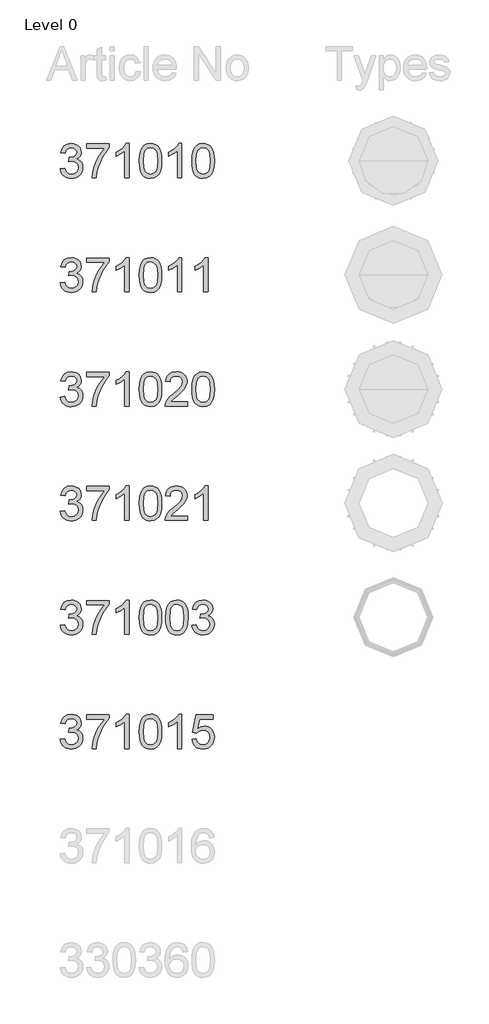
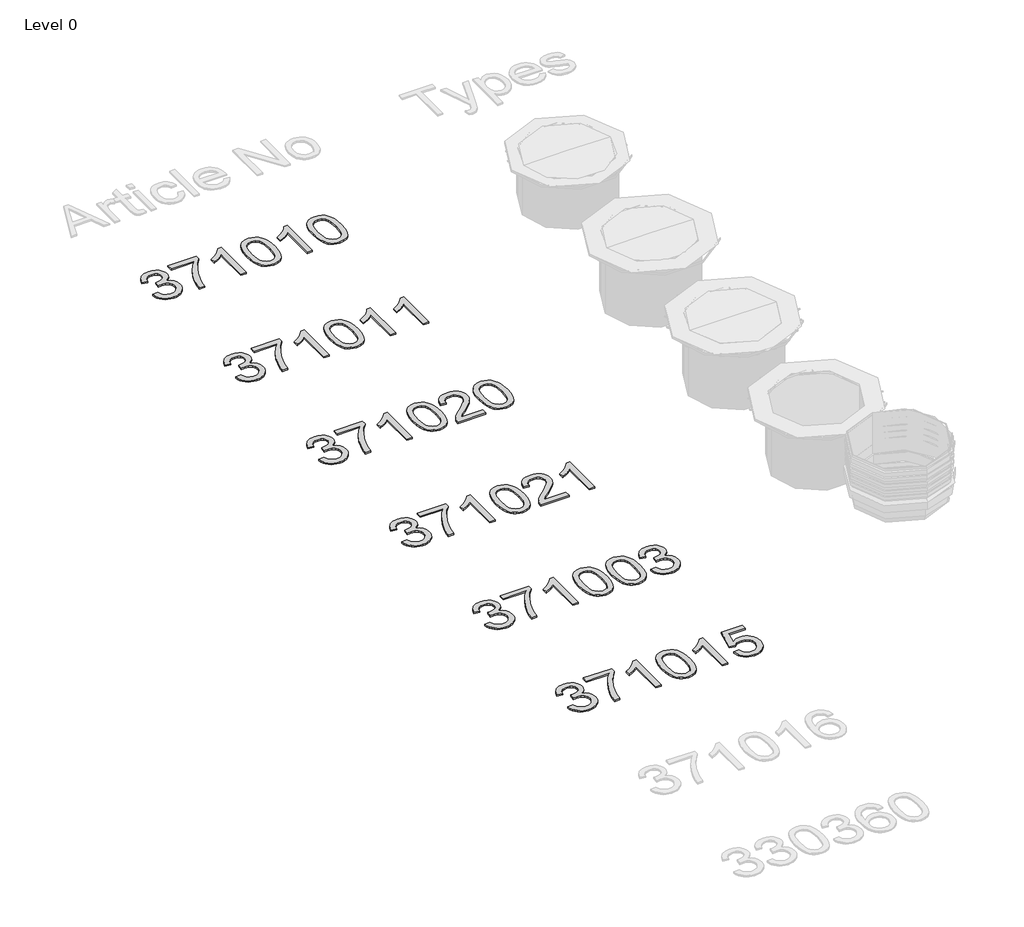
# One storey, part 22 of 25: 6 proxies.
"""IFC4 building model written with IfcOpenShell, lengths in millimetres."""

from ifc_helpers import new_model, si_unit, origin, origin_with_axes, place, context, project, spatial, polyline, outline, extrude, element, save

model = new_model("IFC4")

# Units and contexts
model_context = context("Model", 3, world=origin())
ifc_project = project(units=[si_unit("LENGTHUNIT", "METRE", prefix="MILLI")], contexts=[model_context])

# Site, building, storey
site = spatial("IfcSite", under=ifc_project)
building = spatial("IfcBuilding", under=site)
storey = spatial("IfcBuildingStorey", under=building, Name="Level 0", Elevation=0.0)

# Proxies
placement = place(None, origin())
element("IfcBuildingElementProxy", 1, Name="300mm Arial", ObjectType="300mm Arial", at=placement, inside=storey, context=model_context, shape_type="SweptSolid", body=[
    extrude(outline(polyline([(-3192.0538732, 7879.074324), (-3154.3827568, 7883.7832135), (-3145.9490621, 7860.1100071), (-3133.5974241, 7844.1255344), (-3116.7208376, 7835.020455), (-3094.7122972, 7831.9854286), (-3068.8869812, 7836.1608892), (-3048.947777, 7848.6872712), (-3036.2006659, 7867.3756765), (-3031.9516289, 7890.0372074), (-3036.1638777, 7911.5491071), (-3048.8006242, 7928.9959107), (-3067.930488, 7940.5566024), (-3091.6220885, 7944.4101663), (-3118.0360157, 7940.289888), (-3113.842161, 7977.9610043), (-3107.8088963, 7977.5195459), (-3085.2393359, 7980.2234785), (-3065.0610084, 7988.3352765), (-3050.8239752, 8002.057275), (-3046.0782975, 8021.5918089), (-3049.5179941, 8037.8613901), (-3059.8370841, 8051.0591567), (-3075.5824335, 8059.8055512), (-3095.3009084, 8062.721016), (-3115.0561716, 8059.77796), (-3131.2061912, 8050.9487921), (-3142.9968091, 8036.2335123), (-3149.6738673, 8015.6321206), (-3187.3449836, 8020.3410101), (-3176.2533415, 8054.1677596), (-3156.5164724, 8079.4228585), (-3129.513934, 8095.1498138), (-3096.6252836, 8100.3921323), (-3072.9428802, 8097.8077613), (-3051.1918572, 8090.0546482), (-3032.8529397, 8077.8225719), (-3019.4068528, 8061.801311), (-3011.1570991, 8043.3428319), (-3008.4071812, 8023.7991009), (-3011.0191433, 8005.5889421), (-3018.8550298, 7989.0710405), (-3031.8044761, 7974.9995542), (-3049.7571174, 7964.1286413), (-3026.1758815, 7954.6004976), (-3008.7014868, 7938.3769016), (-2997.8857561, 7916.3407701), (-2994.2805125, 7889.3750198), (-2996.0831343, 7870.2635502), (-3001.4909997, 7852.6603967), (-3010.5041085, 7836.5655594), (-3023.122461, 7821.9790383), (-3038.4953298, 7809.8757207), (-3055.771988, 7801.2304938), (-3074.9524356, 7796.0433577), (-3096.0366724, 7794.3143123), (-3115.0929598, 7795.7904388), (-3132.4569899, 7800.2188183), (-3148.1287629, 7807.5994508), (-3162.1082787, 7817.9323364), (-3173.8299188, 7830.6104696), (-3182.7280646, 7845.0268453), (-3188.802716, 7861.1814634), (-3192.0538732, 7879.074324)])), origin_with_axes(), (0.0, 0.0, 1.0), 10.0),
    extrude(outline(polyline([(-2961.3182858, 8058.0121264), (-2961.3182858, 8095.6832427), (-2763.5449252, 8095.6832427), (-2763.5449252, 8065.2226135), (-2791.7338831, 8029.547257), (-2819.6469294, 7984.17821), (-2844.267432, 7933.2541448), (-2862.5787583, 7880.9137339), (-2871.555079, 7841.7526956), (-2876.5582741, 7799.0232018), (-2914.2293904, 7799.0232018), (-2910.1550973, 7837.8531464), (-2899.2565932, 7884.0039427), (-2881.8281837, 7932.923051), (-2858.1641743, 7980.0579316), (-2830.5362365, 8022.6678637), (-2801.2160415, 8058.0121264), (-2961.3182858, 8058.0121264)])), origin_with_axes(), (0.0, 0.0, 1.0), 10.0),
    extrude(outline(polyline([(-2589.3160123, 7799.0232018), (-2626.9871286, 7799.0232018), (-2626.9871286, 8033.8790675), (-2662.6716821, 8008.4584217), (-2702.3293612, 7989.4389225), (-2702.3293612, 8025.0498997), (-2672.7424517, 8041.1447369), (-2647.1102737, 8060.2929948), (-2626.9043551, 8080.6552632), (-2613.5962239, 8100.3921323), (-2589.3160123, 8100.3921323), (-2589.3160123, 7799.0232018)])), origin_with_axes(), (0.0, 0.0, 1.0), 10.0),
    extrude(outline(polyline([(-2499.847111, 7947.2796459), (-2497.078799, 7995.5181725), (-2488.773863, 8033.9894321), (-2475.0150764, 8063.282036), (-2455.8852126, 8083.9845953), (-2431.246316, 8096.290248), (-2400.9604307, 8100.3921323), (-2377.7470768, 8097.9641111), (-2356.9617441, 8090.6800476), (-2339.5793198, 8078.8250503), (-2326.5746913, 8062.6842278), (-2316.752242, 8042.3955357), (-2308.9163555, 8018.0969299), (-2303.7844017, 7987.2408276), (-2302.0737504, 7947.2796459), (-2304.8144713, 7899.3170308), (-2313.0366339, 7860.9377416), (-2326.7126471, 7831.6175466), (-2345.8149197, 7810.8322139), (-2370.5089986, 7798.4437877), (-2400.9604307, 7794.3143123), (-2421.7089753, 7796.107737), (-2440.103075, 7801.4880112), (-2456.14273, 7810.4551348), (-2469.8279402, 7823.0091079), (-2482.9613275, 7845.7028285), (-2492.3423183, 7873.9791583), (-2497.9709129, 7907.8380975), (-2499.847111, 7947.2796459)]), holes=[polyline([(-2462.1759947, 7947.3532223), (-2457.7614108, 7888.0966299), (-2452.2431809, 7867.8286312), (-2444.517659, 7853.8008309), (-2424.799184, 7837.4392792), (-2400.9604307, 7831.9854286), (-2377.1216774, 7837.4576733), (-2357.4032025, 7853.8744073), (-2349.6776806, 7867.9252003), (-2344.1594507, 7888.1886004), (-2339.7448667, 7947.3532223), (-2344.0122979, 8005.2762424), (-2349.3465868, 8025.4775625), (-2356.8145913, 8039.8387559), (-2376.496278, 8057.0004509), (-2401.4018891, 8062.721016), (-2424.983125, 8057.6810326), (-2443.9290478, 8042.5610826), (-2451.9120871, 8026.9260978), (-2457.614258, 8005.8464595), (-2462.1759947, 7947.3532223)])]), origin_with_axes(), (0.0, 0.0, 1.0), 10.0),
    extrude(outline(polyline([(-2127.8448375, 7799.0232018), (-2165.5159538, 7799.0232018), (-2165.5159538, 8033.8790675), (-2201.2005073, 8008.4584217), (-2240.8581864, 7989.4389225), (-2240.8581864, 8025.0498997), (-2211.271277, 8041.1447369), (-2185.639099, 8060.2929948), (-2165.4331804, 8080.6552632), (-2152.1250492, 8100.3921323), (-2127.8448375, 8100.3921323), (-2127.8448375, 7799.0232018)])), origin_with_axes(), (0.0, 0.0, 1.0), 10.0),
    extrude(outline(polyline([(-2038.3759363, 7947.2796459), (-2035.6076243, 7995.5181725), (-2027.3026882, 8033.9894321), (-2013.5439016, 8063.282036), (-1994.4140379, 8083.9845953), (-1969.7751412, 8096.290248), (-1939.489256, 8100.3921323), (-1916.2759021, 8097.9641111), (-1895.4905694, 8090.6800476), (-1878.1081451, 8078.8250503), (-1865.1035166, 8062.6842278), (-1855.2810673, 8042.3955357), (-1847.4451808, 8018.0969299), (-1842.313227, 7987.2408276), (-1840.6025757, 7947.2796459), (-1843.3432965, 7899.3170308), (-1851.5654591, 7860.9377416), (-1865.2414723, 7831.6175466), (-1884.3437449, 7810.8322139), (-1909.0378238, 7798.4437877), (-1939.489256, 7794.3143123), (-1960.2378005, 7796.107737), (-1978.6319003, 7801.4880112), (-1994.6715553, 7810.4551348), (-2008.3567655, 7823.0091079), (-2021.4901527, 7845.7028285), (-2030.8711436, 7873.9791583), (-2036.4997381, 7907.8380975), (-2038.3759363, 7947.2796459)]), holes=[polyline([(-2000.70482, 7947.3532223), (-1996.290236, 7888.0966299), (-1990.7720061, 7867.8286312), (-1983.0464842, 7853.8008309), (-1963.3280093, 7837.4392792), (-1939.489256, 7831.9854286), (-1915.6505027, 7837.4576733), (-1895.9320277, 7853.8744073), (-1888.2065058, 7867.9252003), (-1882.6882759, 7888.1886004), (-1878.273692, 7947.3532223), (-1882.5411231, 8005.2762424), (-1887.8754121, 8025.4775625), (-1895.3434166, 8039.8387559), (-1915.0251033, 8057.0004509), (-1939.9307144, 8062.721016), (-1963.5119503, 8057.6810326), (-1982.457873, 8042.5610826), (-1990.4409123, 8026.9260978), (-1996.1430832, 8005.8464595), (-2000.70482, 7947.3532223)])]), origin_with_axes(), (0.0, 0.0, 1.0), 10.0),
])
element("IfcBuildingElementProxy", 2, Name="300mm Arial", ObjectType="300mm Arial", at=placement, inside=storey, context=model_context, shape_type="SweptSolid", body=[
    extrude(outline(polyline([(-3192.0538732, 6879.074324), (-3154.3827568, 6883.7832135), (-3145.9490621, 6860.1100071), (-3133.5974241, 6844.1255344), (-3116.7208376, 6835.020455), (-3094.7122972, 6831.9854286), (-3068.8869812, 6836.1608892), (-3048.947777, 6848.6872712), (-3036.2006659, 6867.3756765), (-3031.9516289, 6890.0372074), (-3036.1638777, 6911.5491071), (-3048.8006242, 6928.9959107), (-3067.930488, 6940.5566024), (-3091.6220885, 6944.4101663), (-3118.0360157, 6940.289888), (-3113.842161, 6977.9610043), (-3107.8088963, 6977.5195459), (-3085.2393359, 6980.2234785), (-3065.0610084, 6988.3352765), (-3050.8239752, 7002.057275), (-3046.0782975, 7021.5918089), (-3049.5179941, 7037.8613901), (-3059.8370841, 7051.0591567), (-3075.5824335, 7059.8055512), (-3095.3009084, 7062.721016), (-3115.0561716, 7059.77796), (-3131.2061912, 7050.9487921), (-3142.9968091, 7036.2335123), (-3149.6738673, 7015.6321206), (-3187.3449836, 7020.3410101), (-3176.2533415, 7054.1677596), (-3156.5164724, 7079.4228585), (-3129.513934, 7095.1498138), (-3096.6252836, 7100.3921323), (-3072.9428802, 7097.8077613), (-3051.1918572, 7090.0546482), (-3032.8529397, 7077.8225719), (-3019.4068528, 7061.801311), (-3011.1570991, 7043.3428319), (-3008.4071812, 7023.7991009), (-3011.0191433, 7005.5889421), (-3018.8550298, 6989.0710405), (-3031.8044761, 6974.9995542), (-3049.7571174, 6964.1286413), (-3026.1758815, 6954.6004976), (-3008.7014868, 6938.3769016), (-2997.8857561, 6916.3407701), (-2994.2805125, 6889.3750198), (-2996.0831343, 6870.2635502), (-3001.4909997, 6852.6603967), (-3010.5041085, 6836.5655594), (-3023.122461, 6821.9790383), (-3038.4953298, 6809.8757207), (-3055.771988, 6801.2304938), (-3074.9524356, 6796.0433577), (-3096.0366724, 6794.3143123), (-3115.0929598, 6795.7904388), (-3132.4569899, 6800.2188183), (-3148.1287629, 6807.5994508), (-3162.1082787, 6817.9323364), (-3173.8299188, 6830.6104696), (-3182.7280646, 6845.0268453), (-3188.802716, 6861.1814634), (-3192.0538732, 6879.074324)])), origin_with_axes(), (0.0, 0.0, 1.0), 10.0),
    extrude(outline(polyline([(-2961.3182858, 7058.0121264), (-2961.3182858, 7095.6832427), (-2763.5449252, 7095.6832427), (-2763.5449252, 7065.2226135), (-2791.7338831, 7029.547257), (-2819.6469294, 6984.17821), (-2844.267432, 6933.2541448), (-2862.5787583, 6880.9137339), (-2871.555079, 6841.7526956), (-2876.5582741, 6799.0232018), (-2914.2293904, 6799.0232018), (-2910.1550973, 6837.8531464), (-2899.2565932, 6884.0039427), (-2881.8281837, 6932.923051), (-2858.1641743, 6980.0579316), (-2830.5362365, 7022.6678637), (-2801.2160415, 7058.0121264), (-2961.3182858, 7058.0121264)])), origin_with_axes(), (0.0, 0.0, 1.0), 10.0),
    extrude(outline(polyline([(-2589.3160123, 6799.0232018), (-2626.9871286, 6799.0232018), (-2626.9871286, 7033.8790675), (-2662.6716821, 7008.4584217), (-2702.3293612, 6989.4389225), (-2702.3293612, 7025.0498997), (-2672.7424517, 7041.1447369), (-2647.1102737, 7060.2929948), (-2626.9043551, 7080.6552632), (-2613.5962239, 7100.3921323), (-2589.3160123, 7100.3921323), (-2589.3160123, 6799.0232018)])), origin_with_axes(), (0.0, 0.0, 1.0), 10.0),
    extrude(outline(polyline([(-2499.847111, 6947.2796459), (-2497.078799, 6995.5181725), (-2488.773863, 7033.9894321), (-2475.0150764, 7063.282036), (-2455.8852126, 7083.9845953), (-2431.246316, 7096.290248), (-2400.9604307, 7100.3921323), (-2377.7470768, 7097.9641111), (-2356.9617441, 7090.6800476), (-2339.5793198, 7078.8250503), (-2326.5746913, 7062.6842278), (-2316.752242, 7042.3955357), (-2308.9163555, 7018.0969299), (-2303.7844017, 6987.2408276), (-2302.0737504, 6947.2796459), (-2304.8144713, 6899.3170308), (-2313.0366339, 6860.9377416), (-2326.7126471, 6831.6175466), (-2345.8149197, 6810.8322139), (-2370.5089986, 6798.4437877), (-2400.9604307, 6794.3143123), (-2421.7089753, 6796.107737), (-2440.103075, 6801.4880112), (-2456.14273, 6810.4551348), (-2469.8279402, 6823.0091079), (-2482.9613275, 6845.7028285), (-2492.3423183, 6873.9791583), (-2497.9709129, 6907.8380975), (-2499.847111, 6947.2796459)]), holes=[polyline([(-2462.1759947, 6947.3532223), (-2457.7614108, 6888.0966299), (-2452.2431809, 6867.8286312), (-2444.517659, 6853.8008309), (-2424.799184, 6837.4392792), (-2400.9604307, 6831.9854286), (-2377.1216774, 6837.4576733), (-2357.4032025, 6853.8744073), (-2349.6776806, 6867.9252003), (-2344.1594507, 6888.1886004), (-2339.7448667, 6947.3532223), (-2344.0122979, 7005.2762424), (-2349.3465868, 7025.4775625), (-2356.8145913, 7039.8387559), (-2376.496278, 7057.0004509), (-2401.4018891, 7062.721016), (-2424.983125, 7057.6810326), (-2443.9290478, 7042.5610826), (-2451.9120871, 7026.9260978), (-2457.614258, 7005.8464595), (-2462.1759947, 6947.3532223)])]), origin_with_axes(), (0.0, 0.0, 1.0), 10.0),
    extrude(outline(polyline([(-2127.8448375, 6799.0232018), (-2165.5159538, 6799.0232018), (-2165.5159538, 7033.8790675), (-2201.2005073, 7008.4584217), (-2240.8581864, 6989.4389225), (-2240.8581864, 7025.0498997), (-2211.271277, 7041.1447369), (-2185.639099, 7060.2929948), (-2165.4331804, 7080.6552632), (-2152.1250492, 7100.3921323), (-2127.8448375, 7100.3921323), (-2127.8448375, 6799.0232018)])), origin_with_axes(), (0.0, 0.0, 1.0), 10.0),
    extrude(outline(polyline([(-1897.1092501, 6799.0232018), (-1934.7803664, 6799.0232018), (-1934.7803664, 7033.8790675), (-1970.46492, 7008.4584217), (-2010.1225991, 6989.4389225), (-2010.1225991, 7025.0498997), (-1980.5356896, 7041.1447369), (-1954.9035116, 7060.2929948), (-1934.697593, 7080.6552632), (-1921.3894618, 7100.3921323), (-1897.1092501, 7100.3921323), (-1897.1092501, 6799.0232018)])), origin_with_axes(), (0.0, 0.0, 1.0), 10.0),
])
element("IfcBuildingElementProxy", 3, Name="300mm Arial", ObjectType="300mm Arial", at=placement, inside=storey, context=model_context, shape_type="SweptSolid", body=[
    extrude(outline(polyline([(-3192.0538732, 5879.074324), (-3154.3827568, 5883.7832135), (-3145.9490621, 5860.1100071), (-3133.5974241, 5844.1255344), (-3116.7208376, 5835.020455), (-3094.7122972, 5831.9854286), (-3068.8869812, 5836.1608892), (-3048.947777, 5848.6872712), (-3036.2006659, 5867.3756765), (-3031.9516289, 5890.0372074), (-3036.1638777, 5911.5491071), (-3048.8006242, 5928.9959107), (-3067.930488, 5940.5566024), (-3091.6220885, 5944.4101663), (-3118.0360157, 5940.289888), (-3113.842161, 5977.9610043), (-3107.8088963, 5977.5195459), (-3085.2393359, 5980.2234785), (-3065.0610084, 5988.3352765), (-3050.8239752, 6002.057275), (-3046.0782975, 6021.5918089), (-3049.5179941, 6037.8613901), (-3059.8370841, 6051.0591567), (-3075.5824335, 6059.8055512), (-3095.3009084, 6062.721016), (-3115.0561716, 6059.77796), (-3131.2061912, 6050.9487921), (-3142.9968091, 6036.2335123), (-3149.6738673, 6015.6321206), (-3187.3449836, 6020.3410101), (-3176.2533415, 6054.1677596), (-3156.5164724, 6079.4228585), (-3129.513934, 6095.1498138), (-3096.6252836, 6100.3921323), (-3072.9428802, 6097.8077613), (-3051.1918572, 6090.0546482), (-3032.8529397, 6077.8225719), (-3019.4068528, 6061.801311), (-3011.1570991, 6043.3428319), (-3008.4071812, 6023.7991009), (-3011.0191433, 6005.5889421), (-3018.8550298, 5989.0710405), (-3031.8044761, 5974.9995542), (-3049.7571174, 5964.1286413), (-3026.1758815, 5954.6004976), (-3008.7014868, 5938.3769016), (-2997.8857561, 5916.3407701), (-2994.2805125, 5889.3750198), (-2996.0831343, 5870.2635502), (-3001.4909997, 5852.6603967), (-3010.5041085, 5836.5655594), (-3023.122461, 5821.9790383), (-3038.4953298, 5809.8757207), (-3055.771988, 5801.2304938), (-3074.9524356, 5796.0433577), (-3096.0366724, 5794.3143123), (-3115.0929598, 5795.7904388), (-3132.4569899, 5800.2188183), (-3148.1287629, 5807.5994508), (-3162.1082787, 5817.9323364), (-3173.8299188, 5830.6104696), (-3182.7280646, 5845.0268453), (-3188.802716, 5861.1814634), (-3192.0538732, 5879.074324)])), origin_with_axes(), (0.0, 0.0, 1.0), 10.0),
    extrude(outline(polyline([(-2961.3182858, 6058.0121264), (-2961.3182858, 6095.6832427), (-2763.5449252, 6095.6832427), (-2763.5449252, 6065.2226135), (-2791.7338831, 6029.547257), (-2819.6469294, 5984.17821), (-2844.267432, 5933.2541448), (-2862.5787583, 5880.9137339), (-2871.555079, 5841.7526956), (-2876.5582741, 5799.0232018), (-2914.2293904, 5799.0232018), (-2910.1550973, 5837.8531464), (-2899.2565932, 5884.0039427), (-2881.8281837, 5932.923051), (-2858.1641743, 5980.0579316), (-2830.5362365, 6022.6678637), (-2801.2160415, 6058.0121264), (-2961.3182858, 6058.0121264)])), origin_with_axes(), (0.0, 0.0, 1.0), 10.0),
    extrude(outline(polyline([(-2589.3160123, 5799.0232018), (-2626.9871286, 5799.0232018), (-2626.9871286, 6033.8790675), (-2662.6716821, 6008.4584217), (-2702.3293612, 5989.4389225), (-2702.3293612, 6025.0498997), (-2672.7424517, 6041.1447369), (-2647.1102737, 6060.2929948), (-2626.9043551, 6080.6552632), (-2613.5962239, 6100.3921323), (-2589.3160123, 6100.3921323), (-2589.3160123, 5799.0232018)])), origin_with_axes(), (0.0, 0.0, 1.0), 10.0),
    extrude(outline(polyline([(-2499.847111, 5947.2796459), (-2497.078799, 5995.5181725), (-2488.773863, 6033.9894321), (-2475.0150764, 6063.282036), (-2455.8852126, 6083.9845953), (-2431.246316, 6096.290248), (-2400.9604307, 6100.3921323), (-2377.7470768, 6097.9641111), (-2356.9617441, 6090.6800476), (-2339.5793198, 6078.8250503), (-2326.5746913, 6062.6842278), (-2316.752242, 6042.3955357), (-2308.9163555, 6018.0969299), (-2303.7844017, 5987.2408276), (-2302.0737504, 5947.2796459), (-2304.8144713, 5899.3170308), (-2313.0366339, 5860.9377416), (-2326.7126471, 5831.6175466), (-2345.8149197, 5810.8322139), (-2370.5089986, 5798.4437877), (-2400.9604307, 5794.3143123), (-2421.7089753, 5796.107737), (-2440.103075, 5801.4880112), (-2456.14273, 5810.4551348), (-2469.8279402, 5823.0091079), (-2482.9613275, 5845.7028285), (-2492.3423183, 5873.9791583), (-2497.9709129, 5907.8380975), (-2499.847111, 5947.2796459)]), holes=[polyline([(-2462.1759947, 5947.3532223), (-2457.7614108, 5888.0966299), (-2452.2431809, 5867.8286312), (-2444.517659, 5853.8008309), (-2424.799184, 5837.4392792), (-2400.9604307, 5831.9854286), (-2377.1216774, 5837.4576733), (-2357.4032025, 5853.8744073), (-2349.6776806, 5867.9252003), (-2344.1594507, 5888.1886004), (-2339.7448667, 5947.3532223), (-2344.0122979, 6005.2762424), (-2349.3465868, 6025.4775625), (-2356.8145913, 6039.8387559), (-2376.496278, 6057.0004509), (-2401.4018891, 6062.721016), (-2424.983125, 6057.6810326), (-2443.9290478, 6042.5610826), (-2451.9120871, 6026.9260978), (-2457.614258, 6005.8464595), (-2462.1759947, 5947.3532223)])]), origin_with_axes(), (0.0, 0.0, 1.0), 10.0),
    extrude(outline(polyline([(-2076.0470526, 5836.6943181), (-2076.0470526, 5799.0232018), (-2273.8204132, 5799.0232018), (-2269.7737112, 5824.9956707), (-2260.4846909, 5845.2935598), (-2246.8914511, 5864.9844436), (-2227.2281585, 5885.5950323), (-2199.7289794, 5908.6520364), (-2159.0780189, 5944.7596542), (-2134.6874426, 5971.4127048), (-2122.4921545, 5993.0441661), (-2118.4270584, 6014.0870162), (-2122.2622282, 6032.9501655), (-2133.7677376, 6048.6311355), (-2151.4536645, 6059.1985459), (-2173.8300869, 6062.721016), (-2197.3285493, 6059.2813193), (-2215.5846934, 6048.9622293), (-2227.3661143, 6032.5730865), (-2231.4404073, 6010.923231), (-2269.1115237, 6015.6321206), (-2259.9788531, 6052.0708322), (-2251.4324945, 6066.6067695), (-2240.232787, 6078.6870946), (-2226.6372481, 6088.1830486), (-2210.903395, 6094.9658728), (-2173.0207465, 6100.3921323), (-2152.8309228, 6098.8838161), (-2134.8621866, 6094.3588675), (-2119.1145379, 6086.8172866), (-2105.5879768, 6076.2590734), (-2094.7239616, 6063.465977), (-2086.9639508, 6049.2197467), (-2082.3079443, 6033.5203826), (-2080.7559421, 6016.3678846), (-2082.4298052, 5998.3508639), (-2087.4513944, 5980.6465428), (-2096.3633358, 5962.6387192), (-2109.7082551, 5943.7111905), (-2130.9810315, 5921.114039), (-2163.6765438, 5892.0973466), (-2207.0130429, 5855.8609701), (-2224.009191, 5836.6943181), (-2076.0470526, 5836.6943181)])), origin_with_axes(), (0.0, 0.0, 1.0), 10.0),
    extrude(outline(polyline([(-2038.3759363, 5947.2796459), (-2035.6076243, 5995.5181725), (-2027.3026882, 6033.9894321), (-2013.5439016, 6063.282036), (-1994.4140379, 6083.9845953), (-1969.7751412, 6096.290248), (-1939.489256, 6100.3921323), (-1916.2759021, 6097.9641111), (-1895.4905694, 6090.6800476), (-1878.1081451, 6078.8250503), (-1865.1035166, 6062.6842278), (-1855.2810673, 6042.3955357), (-1847.4451808, 6018.0969299), (-1842.313227, 5987.2408276), (-1840.6025757, 5947.2796459), (-1843.3432965, 5899.3170308), (-1851.5654591, 5860.9377416), (-1865.2414723, 5831.6175466), (-1884.3437449, 5810.8322139), (-1909.0378238, 5798.4437877), (-1939.489256, 5794.3143123), (-1960.2378005, 5796.107737), (-1978.6319003, 5801.4880112), (-1994.6715553, 5810.4551348), (-2008.3567655, 5823.0091079), (-2021.4901527, 5845.7028285), (-2030.8711436, 5873.9791583), (-2036.4997381, 5907.8380975), (-2038.3759363, 5947.2796459)]), holes=[polyline([(-2000.70482, 5947.3532223), (-1996.290236, 5888.0966299), (-1990.7720061, 5867.8286312), (-1983.0464842, 5853.8008309), (-1963.3280093, 5837.4392792), (-1939.489256, 5831.9854286), (-1915.6505027, 5837.4576733), (-1895.9320277, 5853.8744073), (-1888.2065058, 5867.9252003), (-1882.6882759, 5888.1886004), (-1878.273692, 5947.3532223), (-1882.5411231, 6005.2762424), (-1887.8754121, 6025.4775625), (-1895.3434166, 6039.8387559), (-1915.0251033, 6057.0004509), (-1939.9307144, 6062.721016), (-1963.5119503, 6057.6810326), (-1982.457873, 6042.5610826), (-1990.4409123, 6026.9260978), (-1996.1430832, 6005.8464595), (-2000.70482, 5947.3532223)])]), origin_with_axes(), (0.0, 0.0, 1.0), 10.0),
])
element("IfcBuildingElementProxy", 4, Name="300mm Arial", ObjectType="300mm Arial", at=placement, inside=storey, context=model_context, shape_type="SweptSolid", body=[
    extrude(outline(polyline([(-3192.0538732, 4879.074324), (-3154.3827568, 4883.7832135), (-3145.9490621, 4860.1100071), (-3133.5974241, 4844.1255344), (-3116.7208376, 4835.020455), (-3094.7122972, 4831.9854286), (-3068.8869812, 4836.1608892), (-3048.947777, 4848.6872712), (-3036.2006659, 4867.3756765), (-3031.9516289, 4890.0372074), (-3036.1638777, 4911.5491071), (-3048.8006242, 4928.9959107), (-3067.930488, 4940.5566024), (-3091.6220885, 4944.4101663), (-3118.0360157, 4940.289888), (-3113.842161, 4977.9610043), (-3107.8088963, 4977.5195459), (-3085.2393359, 4980.2234785), (-3065.0610084, 4988.3352765), (-3050.8239752, 5002.057275), (-3046.0782975, 5021.5918089), (-3049.5179941, 5037.8613901), (-3059.8370841, 5051.0591567), (-3075.5824335, 5059.8055512), (-3095.3009084, 5062.721016), (-3115.0561716, 5059.77796), (-3131.2061912, 5050.9487921), (-3142.9968091, 5036.2335123), (-3149.6738673, 5015.6321206), (-3187.3449836, 5020.3410101), (-3176.2533415, 5054.1677596), (-3156.5164724, 5079.4228585), (-3129.513934, 5095.1498138), (-3096.6252836, 5100.3921323), (-3072.9428802, 5097.8077613), (-3051.1918572, 5090.0546482), (-3032.8529397, 5077.8225719), (-3019.4068528, 5061.801311), (-3011.1570991, 5043.3428319), (-3008.4071812, 5023.7991009), (-3011.0191433, 5005.5889421), (-3018.8550298, 4989.0710405), (-3031.8044761, 4974.9995542), (-3049.7571174, 4964.1286413), (-3026.1758815, 4954.6004976), (-3008.7014868, 4938.3769016), (-2997.8857561, 4916.3407701), (-2994.2805125, 4889.3750198), (-2996.0831343, 4870.2635502), (-3001.4909997, 4852.6603967), (-3010.5041085, 4836.5655594), (-3023.122461, 4821.9790383), (-3038.4953298, 4809.8757207), (-3055.771988, 4801.2304938), (-3074.9524356, 4796.0433577), (-3096.0366724, 4794.3143123), (-3115.0929598, 4795.7904388), (-3132.4569899, 4800.2188183), (-3148.1287629, 4807.5994508), (-3162.1082787, 4817.9323364), (-3173.8299188, 4830.6104696), (-3182.7280646, 4845.0268453), (-3188.802716, 4861.1814634), (-3192.0538732, 4879.074324)])), origin_with_axes(), (0.0, 0.0, 1.0), 10.0),
    extrude(outline(polyline([(-2961.3182858, 5058.0121264), (-2961.3182858, 5095.6832427), (-2763.5449252, 5095.6832427), (-2763.5449252, 5065.2226135), (-2791.7338831, 5029.547257), (-2819.6469294, 4984.17821), (-2844.267432, 4933.2541448), (-2862.5787583, 4880.9137339), (-2871.555079, 4841.7526956), (-2876.5582741, 4799.0232018), (-2914.2293904, 4799.0232018), (-2910.1550973, 4837.8531464), (-2899.2565932, 4884.0039427), (-2881.8281837, 4932.923051), (-2858.1641743, 4980.0579316), (-2830.5362365, 5022.6678637), (-2801.2160415, 5058.0121264), (-2961.3182858, 5058.0121264)])), origin_with_axes(), (0.0, 0.0, 1.0), 10.0),
    extrude(outline(polyline([(-2589.3160123, 4799.0232018), (-2626.9871286, 4799.0232018), (-2626.9871286, 5033.8790675), (-2662.6716821, 5008.4584217), (-2702.3293612, 4989.4389225), (-2702.3293612, 5025.0498997), (-2672.7424517, 5041.1447369), (-2647.1102737, 5060.2929948), (-2626.9043551, 5080.6552632), (-2613.5962239, 5100.3921323), (-2589.3160123, 5100.3921323), (-2589.3160123, 4799.0232018)])), origin_with_axes(), (0.0, 0.0, 1.0), 10.0),
    extrude(outline(polyline([(-2499.847111, 4947.2796459), (-2497.078799, 4995.5181725), (-2488.773863, 5033.9894321), (-2475.0150764, 5063.282036), (-2455.8852126, 5083.9845953), (-2431.246316, 5096.290248), (-2400.9604307, 5100.3921323), (-2377.7470768, 5097.9641111), (-2356.9617441, 5090.6800476), (-2339.5793198, 5078.8250503), (-2326.5746913, 5062.6842278), (-2316.752242, 5042.3955357), (-2308.9163555, 5018.0969299), (-2303.7844017, 4987.2408276), (-2302.0737504, 4947.2796459), (-2304.8144713, 4899.3170308), (-2313.0366339, 4860.9377416), (-2326.7126471, 4831.6175466), (-2345.8149197, 4810.8322139), (-2370.5089986, 4798.4437877), (-2400.9604307, 4794.3143123), (-2421.7089753, 4796.107737), (-2440.103075, 4801.4880112), (-2456.14273, 4810.4551348), (-2469.8279402, 4823.0091079), (-2482.9613275, 4845.7028285), (-2492.3423183, 4873.9791583), (-2497.9709129, 4907.8380975), (-2499.847111, 4947.2796459)]), holes=[polyline([(-2462.1759947, 4947.3532223), (-2457.7614108, 4888.0966299), (-2452.2431809, 4867.8286312), (-2444.517659, 4853.8008309), (-2424.799184, 4837.4392792), (-2400.9604307, 4831.9854286), (-2377.1216774, 4837.4576733), (-2357.4032025, 4853.8744073), (-2349.6776806, 4867.9252003), (-2344.1594507, 4888.1886004), (-2339.7448667, 4947.3532223), (-2344.0122979, 5005.2762424), (-2349.3465868, 5025.4775625), (-2356.8145913, 5039.8387559), (-2376.496278, 5057.0004509), (-2401.4018891, 5062.721016), (-2424.983125, 5057.6810326), (-2443.9290478, 5042.5610826), (-2451.9120871, 5026.9260978), (-2457.614258, 5005.8464595), (-2462.1759947, 4947.3532223)])]), origin_with_axes(), (0.0, 0.0, 1.0), 10.0),
    extrude(outline(polyline([(-2076.0470526, 4836.6943181), (-2076.0470526, 4799.0232018), (-2273.8204132, 4799.0232018), (-2269.7737112, 4824.9956707), (-2260.4846909, 4845.2935598), (-2246.8914511, 4864.9844436), (-2227.2281585, 4885.5950323), (-2199.7289794, 4908.6520364), (-2159.0780189, 4944.7596542), (-2134.6874426, 4971.4127048), (-2122.4921545, 4993.0441661), (-2118.4270584, 5014.0870162), (-2122.2622282, 5032.9501655), (-2133.7677376, 5048.6311355), (-2151.4536645, 5059.1985459), (-2173.8300869, 5062.721016), (-2197.3285493, 5059.2813193), (-2215.5846934, 5048.9622293), (-2227.3661143, 5032.5730865), (-2231.4404073, 5010.923231), (-2269.1115237, 5015.6321206), (-2259.9788531, 5052.0708322), (-2251.4324945, 5066.6067695), (-2240.232787, 5078.6870946), (-2226.6372481, 5088.1830486), (-2210.903395, 5094.9658728), (-2173.0207465, 5100.3921323), (-2152.8309228, 5098.8838161), (-2134.8621866, 5094.3588675), (-2119.1145379, 5086.8172866), (-2105.5879768, 5076.2590734), (-2094.7239616, 5063.465977), (-2086.9639508, 5049.2197467), (-2082.3079443, 5033.5203826), (-2080.7559421, 5016.3678846), (-2082.4298052, 4998.3508639), (-2087.4513944, 4980.6465428), (-2096.3633358, 4962.6387192), (-2109.7082551, 4943.7111905), (-2130.9810315, 4921.114039), (-2163.6765438, 4892.0973466), (-2207.0130429, 4855.8609701), (-2224.009191, 4836.6943181), (-2076.0470526, 4836.6943181)])), origin_with_axes(), (0.0, 0.0, 1.0), 10.0),
    extrude(outline(polyline([(-1897.1092501, 4799.0232018), (-1934.7803664, 4799.0232018), (-1934.7803664, 5033.8790675), (-1970.46492, 5008.4584217), (-2010.1225991, 4989.4389225), (-2010.1225991, 5025.0498997), (-1980.5356896, 5041.1447369), (-1954.9035116, 5060.2929948), (-1934.697593, 5080.6552632), (-1921.3894618, 5100.3921323), (-1897.1092501, 5100.3921323), (-1897.1092501, 4799.0232018)])), origin_with_axes(), (0.0, 0.0, 1.0), 10.0),
])
element("IfcBuildingElementProxy", 5, Name="300mm Arial", ObjectType="300mm Arial", at=placement, inside=storey, context=model_context, shape_type="SweptSolid", body=[
    extrude(outline(polyline([(-3192.0538732, 3879.074324), (-3154.3827568, 3883.7832135), (-3145.9490621, 3860.1100071), (-3133.5974241, 3844.1255344), (-3116.7208376, 3835.020455), (-3094.7122972, 3831.9854286), (-3068.8869812, 3836.1608892), (-3048.947777, 3848.6872712), (-3036.2006659, 3867.3756765), (-3031.9516289, 3890.0372074), (-3036.1638777, 3911.5491071), (-3048.8006242, 3928.9959107), (-3067.930488, 3940.5566024), (-3091.6220885, 3944.4101663), (-3118.0360157, 3940.289888), (-3113.842161, 3977.9610043), (-3107.8088963, 3977.5195459), (-3085.2393359, 3980.2234785), (-3065.0610084, 3988.3352765), (-3050.8239752, 4002.057275), (-3046.0782975, 4021.5918089), (-3049.5179941, 4037.8613901), (-3059.8370841, 4051.0591567), (-3075.5824335, 4059.8055512), (-3095.3009084, 4062.721016), (-3115.0561716, 4059.77796), (-3131.2061912, 4050.9487921), (-3142.9968091, 4036.2335123), (-3149.6738673, 4015.6321206), (-3187.3449836, 4020.3410101), (-3176.2533415, 4054.1677596), (-3156.5164724, 4079.4228585), (-3129.513934, 4095.1498138), (-3096.6252836, 4100.3921323), (-3072.9428802, 4097.8077613), (-3051.1918572, 4090.0546482), (-3032.8529397, 4077.8225719), (-3019.4068528, 4061.801311), (-3011.1570991, 4043.3428319), (-3008.4071812, 4023.7991009), (-3011.0191433, 4005.5889421), (-3018.8550298, 3989.0710405), (-3031.8044761, 3974.9995542), (-3049.7571174, 3964.1286413), (-3026.1758815, 3954.6004976), (-3008.7014868, 3938.3769016), (-2997.8857561, 3916.3407701), (-2994.2805125, 3889.3750198), (-2996.0831343, 3870.2635502), (-3001.4909997, 3852.6603967), (-3010.5041085, 3836.5655594), (-3023.122461, 3821.9790383), (-3038.4953298, 3809.8757207), (-3055.771988, 3801.2304938), (-3074.9524356, 3796.0433577), (-3096.0366724, 3794.3143123), (-3115.0929598, 3795.7904388), (-3132.4569899, 3800.2188183), (-3148.1287629, 3807.5994508), (-3162.1082787, 3817.9323364), (-3173.8299188, 3830.6104696), (-3182.7280646, 3845.0268453), (-3188.802716, 3861.1814634), (-3192.0538732, 3879.074324)])), origin_with_axes(), (0.0, 0.0, 1.0), 10.0),
    extrude(outline(polyline([(-2961.3182858, 4058.0121264), (-2961.3182858, 4095.6832427), (-2763.5449252, 4095.6832427), (-2763.5449252, 4065.2226135), (-2791.7338831, 4029.547257), (-2819.6469294, 3984.17821), (-2844.267432, 3933.2541448), (-2862.5787583, 3880.9137339), (-2871.555079, 3841.7526956), (-2876.5582741, 3799.0232018), (-2914.2293904, 3799.0232018), (-2910.1550973, 3837.8531464), (-2899.2565932, 3884.0039427), (-2881.8281837, 3932.923051), (-2858.1641743, 3980.0579316), (-2830.5362365, 4022.6678637), (-2801.2160415, 4058.0121264), (-2961.3182858, 4058.0121264)])), origin_with_axes(), (0.0, 0.0, 1.0), 10.0),
    extrude(outline(polyline([(-2589.3160123, 3799.0232018), (-2626.9871286, 3799.0232018), (-2626.9871286, 4033.8790675), (-2662.6716821, 4008.4584217), (-2702.3293612, 3989.4389225), (-2702.3293612, 4025.0498997), (-2672.7424517, 4041.1447369), (-2647.1102737, 4060.2929948), (-2626.9043551, 4080.6552632), (-2613.5962239, 4100.3921323), (-2589.3160123, 4100.3921323), (-2589.3160123, 3799.0232018)])), origin_with_axes(), (0.0, 0.0, 1.0), 10.0),
    extrude(outline(polyline([(-2499.847111, 3947.2796459), (-2497.078799, 3995.5181725), (-2488.773863, 4033.9894321), (-2475.0150764, 4063.282036), (-2455.8852126, 4083.9845953), (-2431.246316, 4096.290248), (-2400.9604307, 4100.3921323), (-2377.7470768, 4097.9641111), (-2356.9617441, 4090.6800476), (-2339.5793198, 4078.8250503), (-2326.5746913, 4062.6842278), (-2316.752242, 4042.3955357), (-2308.9163555, 4018.0969299), (-2303.7844017, 3987.2408276), (-2302.0737504, 3947.2796459), (-2304.8144713, 3899.3170308), (-2313.0366339, 3860.9377416), (-2326.7126471, 3831.6175466), (-2345.8149197, 3810.8322139), (-2370.5089986, 3798.4437877), (-2400.9604307, 3794.3143123), (-2421.7089753, 3796.107737), (-2440.103075, 3801.4880112), (-2456.14273, 3810.4551348), (-2469.8279402, 3823.0091079), (-2482.9613275, 3845.7028285), (-2492.3423183, 3873.9791583), (-2497.9709129, 3907.8380975), (-2499.847111, 3947.2796459)]), holes=[polyline([(-2462.1759947, 3947.3532223), (-2457.7614108, 3888.0966299), (-2452.2431809, 3867.8286312), (-2444.517659, 3853.8008309), (-2424.799184, 3837.4392792), (-2400.9604307, 3831.9854286), (-2377.1216774, 3837.4576733), (-2357.4032025, 3853.8744073), (-2349.6776806, 3867.9252003), (-2344.1594507, 3888.1886004), (-2339.7448667, 3947.3532223), (-2344.0122979, 4005.2762424), (-2349.3465868, 4025.4775625), (-2356.8145913, 4039.8387559), (-2376.496278, 4057.0004509), (-2401.4018891, 4062.721016), (-2424.983125, 4057.6810326), (-2443.9290478, 4042.5610826), (-2451.9120871, 4026.9260978), (-2457.614258, 4005.8464595), (-2462.1759947, 3947.3532223)])]), origin_with_axes(), (0.0, 0.0, 1.0), 10.0),
    extrude(outline(polyline([(-2269.1115237, 3947.2796459), (-2266.3432116, 3995.5181725), (-2258.0382756, 4033.9894321), (-2244.279489, 4063.282036), (-2225.1496252, 4083.9845953), (-2200.5107286, 4096.290248), (-2170.2248434, 4100.3921323), (-2147.0114895, 4097.9641111), (-2126.2261567, 4090.6800476), (-2108.8437325, 4078.8250503), (-2095.8391039, 4062.6842278), (-2086.0166547, 4042.3955357), (-2078.1807682, 4018.0969299), (-2073.0488143, 3987.2408276), (-2071.338163, 3947.2796459), (-2074.0788839, 3899.3170308), (-2082.3010465, 3860.9377416), (-2095.9770597, 3831.6175466), (-2115.0793323, 3810.8322139), (-2139.7734112, 3798.4437877), (-2170.2248434, 3794.3143123), (-2190.9733879, 3796.107737), (-2209.3674876, 3801.4880112), (-2225.4071426, 3810.4551348), (-2239.0923528, 3823.0091079), (-2252.2257401, 3845.7028285), (-2261.606731, 3873.9791583), (-2267.2353255, 3907.8380975), (-2269.1115237, 3947.2796459)]), holes=[polyline([(-2231.4404073, 3947.3532223), (-2227.0258234, 3888.0966299), (-2221.5075935, 3867.8286312), (-2213.7820716, 3853.8008309), (-2194.0635966, 3837.4392792), (-2170.2248434, 3831.9854286), (-2146.3860901, 3837.4576733), (-2126.6676151, 3853.8744073), (-2118.9420932, 3867.9252003), (-2113.4238633, 3888.1886004), (-2109.0092794, 3947.3532223), (-2113.2767105, 4005.2762424), (-2118.6109994, 4025.4775625), (-2126.0790039, 4039.8387559), (-2145.7606907, 4057.0004509), (-2170.6663017, 4062.721016), (-2194.2475376, 4057.6810326), (-2213.1934604, 4042.5610826), (-2221.1764997, 4026.9260978), (-2226.8786706, 4005.8464595), (-2231.4404073, 3947.3532223)])]), origin_with_axes(), (0.0, 0.0, 1.0), 10.0),
    extrude(outline(polyline([(-2038.3759363, 3879.074324), (-2000.70482, 3883.7832135), (-1992.2711252, 3860.1100071), (-1979.9194872, 3844.1255344), (-1963.0429007, 3835.020455), (-1941.0343604, 3831.9854286), (-1915.2090443, 3836.1608892), (-1895.2698402, 3848.6872712), (-1882.522729, 3867.3756765), (-1878.273692, 3890.0372074), (-1882.4859408, 3911.5491071), (-1895.1226874, 3928.9959107), (-1914.2525511, 3940.5566024), (-1937.9441516, 3944.4101663), (-1964.3580789, 3940.289888), (-1960.1642241, 3977.9610043), (-1954.1309594, 3977.5195459), (-1931.561399, 3980.2234785), (-1911.3830715, 3988.3352765), (-1897.1460383, 4002.057275), (-1892.4003606, 4021.5918089), (-1895.8400572, 4037.8613901), (-1906.1591472, 4051.0591567), (-1921.9044966, 4059.8055512), (-1941.6229715, 4062.721016), (-1961.3782347, 4059.77796), (-1977.5282543, 4050.9487921), (-1989.3188722, 4036.2335123), (-1995.9959304, 4015.6321206), (-2033.6670467, 4020.3410101), (-2022.5754046, 4054.1677596), (-2002.8385355, 4079.4228585), (-1975.8359971, 4095.1498138), (-1942.9473467, 4100.3921323), (-1919.2649433, 4097.8077613), (-1897.5139203, 4090.0546482), (-1879.1750029, 4077.8225719), (-1865.7289159, 4061.801311), (-1857.4791622, 4043.3428319), (-1854.7292443, 4023.7991009), (-1857.3412065, 4005.5889421), (-1865.177093, 3989.0710405), (-1878.1265392, 3974.9995542), (-1896.0791805, 3964.1286413), (-1872.4979447, 3954.6004976), (-1855.0235499, 3938.3769016), (-1844.2078192, 3916.3407701), (-1840.6025757, 3889.3750198), (-1842.4051975, 3870.2635502), (-1847.8130628, 3852.6603967), (-1856.8261717, 3836.5655594), (-1869.4445241, 3821.9790383), (-1884.817393, 3809.8757207), (-1902.0940512, 3801.2304938), (-1921.2744987, 3796.0433577), (-1942.3587355, 3794.3143123), (-1961.4150229, 3795.7904388), (-1978.7790531, 3800.2188183), (-1994.4508261, 3807.5994508), (-2008.4303419, 3817.9323364), (-2020.1519819, 3830.6104696), (-2029.0501277, 3845.0268453), (-2035.1247791, 3861.1814634), (-2038.3759363, 3879.074324)])), origin_with_axes(), (0.0, 0.0, 1.0), 10.0),
])
element("IfcBuildingElementProxy", 6, Name="300mm Arial", ObjectType="300mm Arial", at=placement, inside=storey, context=model_context, shape_type="SweptSolid", body=[
    extrude(outline(polyline([(-3192.0538732, 2879.074324), (-3154.3827568, 2883.7832135), (-3145.9490621, 2860.1100071), (-3133.5974241, 2844.1255344), (-3116.7208376, 2835.020455), (-3094.7122972, 2831.9854286), (-3068.8869812, 2836.1608892), (-3048.947777, 2848.6872712), (-3036.2006659, 2867.3756765), (-3031.9516289, 2890.0372074), (-3036.1638777, 2911.5491071), (-3048.8006242, 2928.9959107), (-3067.930488, 2940.5566024), (-3091.6220885, 2944.4101663), (-3118.0360157, 2940.289888), (-3113.842161, 2977.9610043), (-3107.8088963, 2977.5195459), (-3085.2393359, 2980.2234785), (-3065.0610084, 2988.3352765), (-3050.8239752, 3002.057275), (-3046.0782975, 3021.5918089), (-3049.5179941, 3037.8613901), (-3059.8370841, 3051.0591567), (-3075.5824335, 3059.8055512), (-3095.3009084, 3062.721016), (-3115.0561716, 3059.77796), (-3131.2061912, 3050.9487921), (-3142.9968091, 3036.2335123), (-3149.6738673, 3015.6321206), (-3187.3449836, 3020.3410101), (-3176.2533415, 3054.1677596), (-3156.5164724, 3079.4228585), (-3129.513934, 3095.1498138), (-3096.6252836, 3100.3921323), (-3072.9428802, 3097.8077613), (-3051.1918572, 3090.0546482), (-3032.8529397, 3077.8225719), (-3019.4068528, 3061.801311), (-3011.1570991, 3043.3428319), (-3008.4071812, 3023.7991009), (-3011.0191433, 3005.5889421), (-3018.8550298, 2989.0710405), (-3031.8044761, 2974.9995542), (-3049.7571174, 2964.1286413), (-3026.1758815, 2954.6004976), (-3008.7014868, 2938.3769016), (-2997.8857561, 2916.3407701), (-2994.2805125, 2889.3750198), (-2996.0831343, 2870.2635502), (-3001.4909997, 2852.6603967), (-3010.5041085, 2836.5655594), (-3023.122461, 2821.9790383), (-3038.4953298, 2809.8757207), (-3055.771988, 2801.2304938), (-3074.9524356, 2796.0433577), (-3096.0366724, 2794.3143123), (-3115.0929598, 2795.7904388), (-3132.4569899, 2800.2188183), (-3148.1287629, 2807.5994508), (-3162.1082787, 2817.9323364), (-3173.8299188, 2830.6104696), (-3182.7280646, 2845.0268453), (-3188.802716, 2861.1814634), (-3192.0538732, 2879.074324)])), origin_with_axes(), (0.0, 0.0, 1.0), 10.0),
    extrude(outline(polyline([(-2961.3182858, 3058.0121264), (-2961.3182858, 3095.6832427), (-2763.5449252, 3095.6832427), (-2763.5449252, 3065.2226135), (-2791.7338831, 3029.547257), (-2819.6469294, 2984.17821), (-2844.267432, 2933.2541448), (-2862.5787583, 2880.9137339), (-2871.555079, 2841.7526956), (-2876.5582741, 2799.0232018), (-2914.2293904, 2799.0232018), (-2910.1550973, 2837.8531464), (-2899.2565932, 2884.0039427), (-2881.8281837, 2932.923051), (-2858.1641743, 2980.0579316), (-2830.5362365, 3022.6678637), (-2801.2160415, 3058.0121264), (-2961.3182858, 3058.0121264)])), origin_with_axes(), (0.0, 0.0, 1.0), 10.0),
    extrude(outline(polyline([(-2589.3160123, 2799.0232018), (-2626.9871286, 2799.0232018), (-2626.9871286, 3033.8790675), (-2662.6716821, 3008.4584217), (-2702.3293612, 2989.4389225), (-2702.3293612, 3025.0498997), (-2672.7424517, 3041.1447369), (-2647.1102737, 3060.2929948), (-2626.9043551, 3080.6552632), (-2613.5962239, 3100.3921323), (-2589.3160123, 3100.3921323), (-2589.3160123, 2799.0232018)])), origin_with_axes(), (0.0, 0.0, 1.0), 10.0),
    extrude(outline(polyline([(-2499.847111, 2947.2796459), (-2497.078799, 2995.5181725), (-2488.773863, 3033.9894321), (-2475.0150764, 3063.282036), (-2455.8852126, 3083.9845953), (-2431.246316, 3096.290248), (-2400.9604307, 3100.3921323), (-2377.7470768, 3097.9641111), (-2356.9617441, 3090.6800476), (-2339.5793198, 3078.8250503), (-2326.5746913, 3062.6842278), (-2316.752242, 3042.3955357), (-2308.9163555, 3018.0969299), (-2303.7844017, 2987.2408276), (-2302.0737504, 2947.2796459), (-2304.8144713, 2899.3170308), (-2313.0366339, 2860.9377416), (-2326.7126471, 2831.6175466), (-2345.8149197, 2810.8322139), (-2370.5089986, 2798.4437877), (-2400.9604307, 2794.3143123), (-2421.7089753, 2796.107737), (-2440.103075, 2801.4880112), (-2456.14273, 2810.4551348), (-2469.8279402, 2823.0091079), (-2482.9613275, 2845.7028285), (-2492.3423183, 2873.9791583), (-2497.9709129, 2907.8380975), (-2499.847111, 2947.2796459)]), holes=[polyline([(-2462.1759947, 2947.3532223), (-2457.7614108, 2888.0966299), (-2452.2431809, 2867.8286312), (-2444.517659, 2853.8008309), (-2424.799184, 2837.4392792), (-2400.9604307, 2831.9854286), (-2377.1216774, 2837.4576733), (-2357.4032025, 2853.8744073), (-2349.6776806, 2867.9252003), (-2344.1594507, 2888.1886004), (-2339.7448667, 2947.3532223), (-2344.0122979, 3005.2762424), (-2349.3465868, 3025.4775625), (-2356.8145913, 3039.8387559), (-2376.496278, 3057.0004509), (-2401.4018891, 3062.721016), (-2424.983125, 3057.6810326), (-2443.9290478, 3042.5610826), (-2451.9120871, 3026.9260978), (-2457.614258, 3005.8464595), (-2462.1759947, 2947.3532223)])]), origin_with_axes(), (0.0, 0.0, 1.0), 10.0),
    extrude(outline(polyline([(-2127.8448375, 2799.0232018), (-2165.5159538, 2799.0232018), (-2165.5159538, 3033.8790675), (-2201.2005073, 3008.4584217), (-2240.8581864, 2989.4389225), (-2240.8581864, 3025.0498997), (-2211.271277, 3041.1447369), (-2185.639099, 3060.2929948), (-2165.4331804, 3080.6552632), (-2152.1250492, 3100.3921323), (-2127.8448375, 3100.3921323), (-2127.8448375, 2799.0232018)])), origin_with_axes(), (0.0, 0.0, 1.0), 10.0),
    extrude(outline(polyline([(-2038.3759363, 2879.074324), (-2000.70482, 2883.7832135), (-1993.7886385, 2861.1676679), (-1981.722109, 2844.971663), (-1964.5604139, 2835.2319872), (-1942.3587355, 2831.9854286), (-1915.3561971, 2836.5011801), (-1895.1226874, 2850.0484346), (-1882.4859408, 2871.0636935), (-1878.273692, 2897.9834585), (-1882.2192264, 2923.330528), (-1894.0558296, 2942.7179091), (-1913.8754721, 2955.0235619), (-1941.7701243, 2959.1254461), (-1960.0446625, 2957.4883712), (-1974.8427157, 2952.5771466), (-1995.9959304, 2935.5809984), (-2033.6670467, 2940.289888), (-2000.70482, 3095.6832427), (-1854.7292443, 3095.6832427), (-1854.7292443, 3058.0121264), (-1970.2441908, 3058.0121264), (-1986.3574222, 2975.0179483), (-1959.4468542, 2991.3519089), (-1931.2486993, 2996.7965624), (-1912.902884, 2995.1089038), (-1896.0515894, 2990.0459278), (-1880.6948154, 2981.6076346), (-1866.8325619, 2969.794024), (-1855.3569429, 2955.3270645), (-1847.1600722, 2938.9287246), (-1842.2419498, 2920.5990042), (-1840.6025757, 2900.3379033), (-1846.5070817, 2862.666787), (-1853.8877142, 2845.8729739), (-1864.2205998, 2830.4403242), (-1879.8739787, 2814.635194), (-1898.1393197, 2803.3458153), (-1919.0166229, 2796.572188), (-1942.5058883, 2794.3143123), (-1979.50562, 2800.1176508), (-1995.1842908, 2807.3718238), (-2008.9821649, 2817.5276662), (-2020.4623824, 2830.07934), (-2029.1880835, 2844.5210076), (-2038.3759363, 2879.074324)])), origin_with_axes(), (0.0, 0.0, 1.0), 10.0),
])

save(model, "model.ifc")
